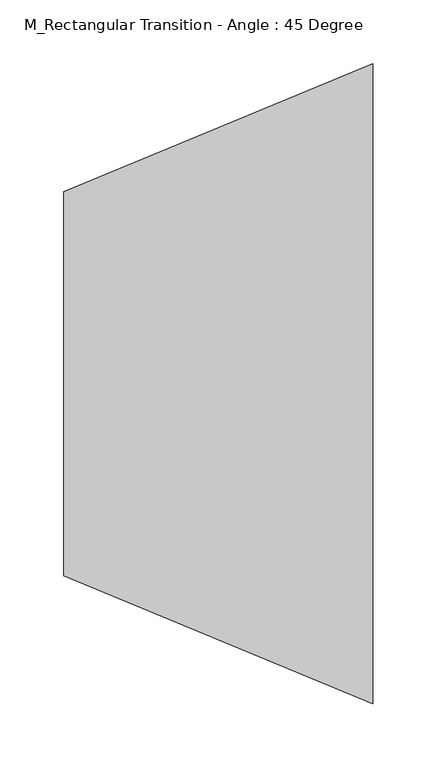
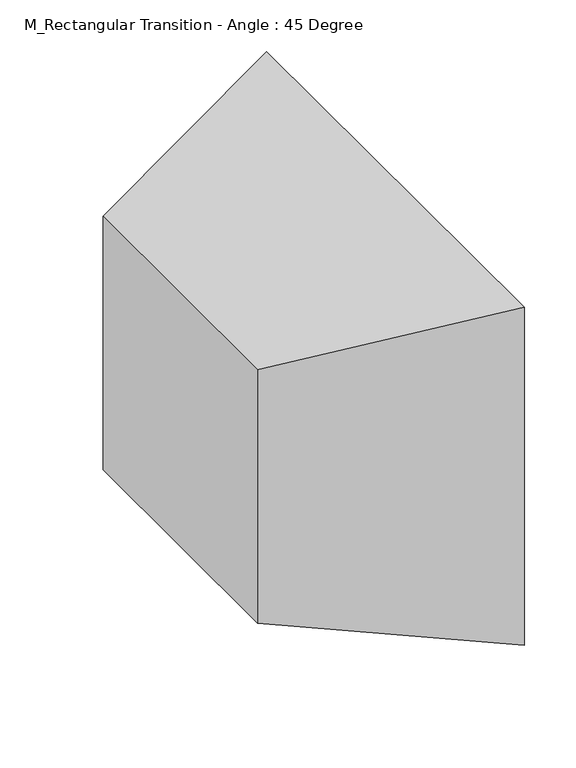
"""IFC4 building model written with IfcOpenShell, lengths in millimetres: duct fitting geometry, M_Rectangular Transition - Angle : 45 Degree."""

from ifc_helpers import new_model, si_unit, origin, place, context, project, spatial, faceted_brep, source, transform, mapped, element, save


def m_rectangular_transition_angle_45_degree_dad80b37(model_context):
    return source(origin(), model_context, "Body", "Brep", [
        faceted_brep([(241.4213562, -250.0, 200.0), (241.4213562, -250.0, -200.0), (241.4213562, 250.0, -200.0), (241.4213562, 250.0, 200.0), (0.0, -150.0, 150.0), (0.0, 150.0, 150.0), (0.0, 150.0, -150.0), (0.0, -150.0, -150.0)], [[[0, 1, 2, 3]], [[4, 5, 6, 7]], [[4, 7, 1, 0]], [[7, 6, 2, 1]], [[6, 5, 3, 2]], [[5, 4, 0, 3]]]),
        faceted_brep([(241.4213562, -250.0, 200.0), (241.4213562, -250.0, -200.0), (241.4213562, 250.0, -200.0), (241.4213562, 250.0, 200.0), (0.0, -150.0, 150.0), (0.0, 150.0, 150.0), (0.0, 150.0, -150.0), (0.0, -150.0, -150.0)], [[[0, 1, 2, 3]], [[4, 5, 6, 7]], [[4, 7, 1, 0]], [[7, 6, 2, 1]], [[6, 5, 3, 2]], [[5, 4, 0, 3]]]),
        faceted_brep([(241.4213562, -250.0, 200.0), (241.4213562, -250.0, -200.0), (241.4213562, 250.0, -200.0), (241.4213562, 250.0, 200.0), (0.0, -150.0, 150.0), (0.0, 150.0, 150.0), (0.0, 150.0, -150.0), (0.0, -150.0, -150.0)], [[[0, 1, 2, 3]], [[4, 5, 6, 7]], [[4, 7, 1, 0]], [[7, 6, 2, 1]], [[6, 5, 3, 2]], [[5, 4, 0, 3]]]),
    ])


if __name__ == "__main__":
    model = new_model("IFC4")
    model_context = context("Model", 3, world=origin())
    ifc_project = project(units=[si_unit("LENGTHUNIT", "METRE", prefix="MILLI")], contexts=[model_context])
    site = spatial("IfcSite", under=ifc_project)
    building = spatial("IfcBuilding", under=site)
    placement = place(None, origin())
    m_rectangular_transition_angle_45_degree_shape = m_rectangular_transition_angle_45_degree_dad80b37(model_context)
    element("IfcDuctFitting", 1, ObjectType="M_Rectangular Transition - Angle : 45 Degree", at=placement, inside=building, context=model_context, shape_type="MappedRepresentation", body=[
        mapped(m_rectangular_transition_angle_45_degree_shape, transform((0.0, 0.0, 0.0), x_axis=(1.0, 0.0, 0.0), y_axis=(0.0, 1.0, 0.0), z_axis=(0.0, 0.0, 1.0))),
    ])
    save(model, "model.ifc")
